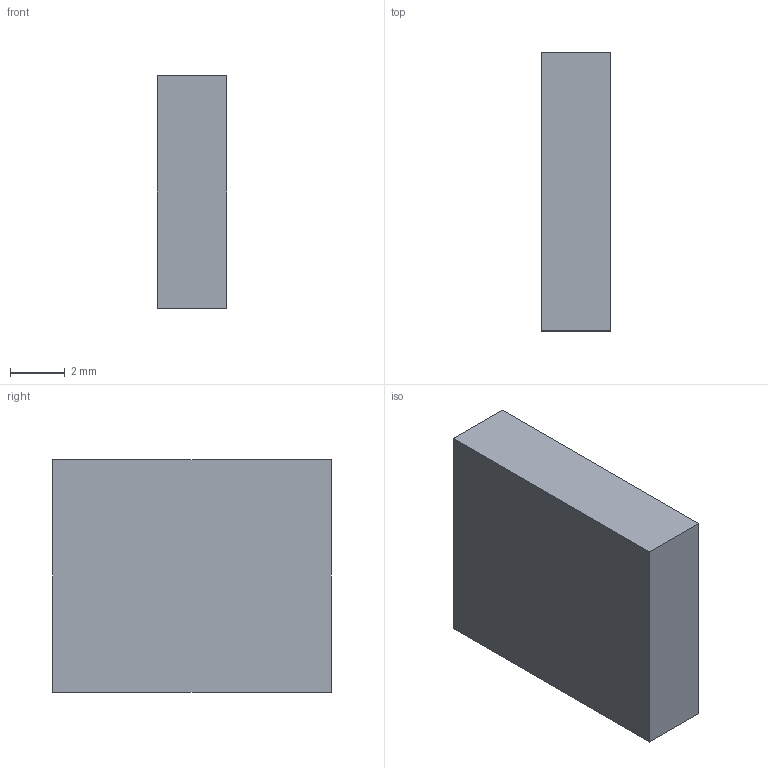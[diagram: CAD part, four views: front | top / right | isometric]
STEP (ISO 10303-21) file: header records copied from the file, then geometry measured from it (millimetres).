
FILE_DESCRIPTION(('Through-hole socket strip 1x4, 2.54 mm pitch -- body envelope 8.50 mm tall (2.54 mm socket strip, mating height (ICD-EEG-006 section 4))'),'2;1');
FILE_NAME('PinSocket_1x04_P2.54mm_Vertical','2026-09-08T00:00:00',('TI One Voice research programme'),(''),'EEG-CAR-01 step_write.py','','CC BY-SA 4.0');
FILE_SCHEMA(('AUTOMOTIVE_DESIGN { 1 0 10303 214 1 1 1 1 }'));
Length unit declared in the file: millimetre
Products named in the file (1): PinSocket_1x04_P2.54mm_Vertical
Bounding box: 2.54 x 10.16 x 8.5 mm (x, y, z)
Volume: 219.4 mm3; surface area: 267.5 mm2
Topology: 1 solids, 1 shells, 6 faces, 12 edges, 8 vertices
Faces by surface type: plane 6
Entity records: 67 total; most frequent: DIRECTION 14, CARTESIAN_POINT 9, AXIS2_PLACEMENT_3D 7, POLY_LOOP 6, FACE_OUTER_BOUND 6, PLANE 6, FACE_SURFACE 6, UNCERTAINTY_MEASURE_WITH_UNIT 1
